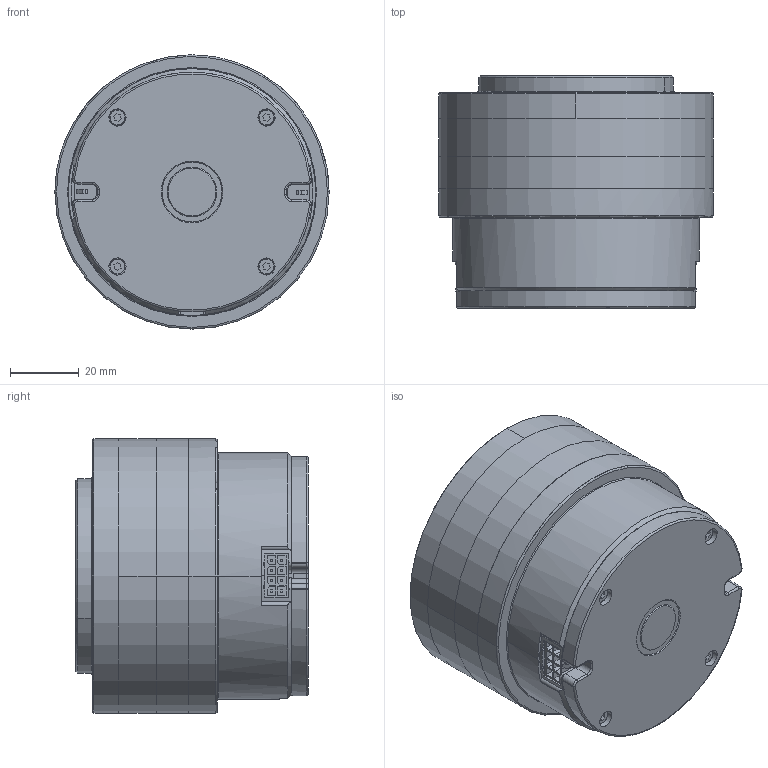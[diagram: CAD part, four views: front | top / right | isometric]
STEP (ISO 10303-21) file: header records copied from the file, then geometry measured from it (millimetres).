
FILE_DESCRIPTION (( 'STEP AP214' ), '1' );
FILE_NAME ('QDD-6010-36_v2_2.STEP', '2019-05-08T08:20:42', ( 'Microsoft' ), ( 'Microsoft' ), 'SwSTEP 2.0', 'SolidWorks 2018', '' );
FILE_SCHEMA (( 'AUTOMOTIVE_DESIGN' ));
Length unit declared in the file: millimetre
Products named in the file (1): QDD-6010-36_v2_2
Bounding box: 80 x 67.8 x 80 mm (x, y, z)
Volume: 277794.5 mm3; surface area: 93122.9 mm2
Topology: 31 solids, 37 shells, 1811 faces, 4594 edges, 2932 vertices
Faces by surface type: plane 1081, cylinder 455, cone 167, torus 93, bspline 15
Entity records: 80085 total; most frequent: CARTESIAN_POINT 16612, ORIENTED_EDGE 9108, DIRECTION 8463, EDGE_CURVE 4554, VECTOR 3075, LINE 3075, VERTEX_POINT 2930, AXIS2_PLACEMENT_3D 2694
